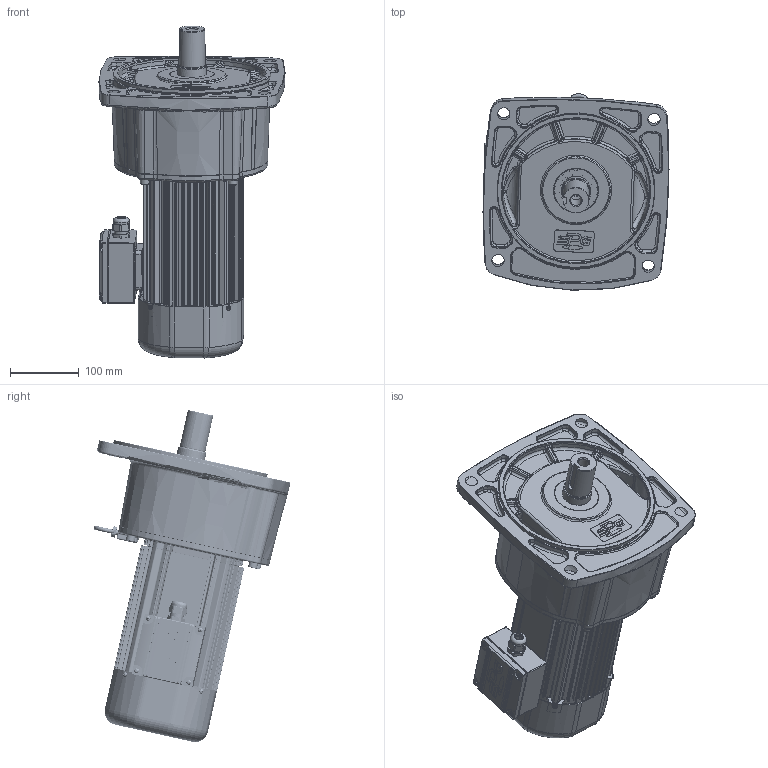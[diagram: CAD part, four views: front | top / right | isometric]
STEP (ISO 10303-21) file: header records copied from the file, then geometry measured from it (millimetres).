
FILE_DESCRIPTION(/* description */ (''),/* implementation_level */ '2;1');
FILE_NAME(/* name */ 'Z:\동력 3D 파일\PAF40_0.75kW_Brake_3D.stp',/* time_stamp */ '2021-11-08T15:47:15+09:00',/* author */ ('jaebok'),/* organization */ (''),/* preprocessor_version */ 'ST-DEVELOPER v18.1',/* originating_system */ 'Autodesk Inventor 2022',/* authorisation */ '');
FILE_SCHEMA (('AUTOMOTIVE_DESIGN { 1 0 10303 214 3 1 1 }'));
Products named in the file (1): 부품18
Bounding box: 271.27 x 286.81 x 484.16 mm (x, y, z)
Volume: 4150002.3 mm3; surface area: 991932.9 mm2
Topology: 1 solids, 32 shells, 4108 faces, 10376 edges, 6144 vertices
Faces by surface type: plane 1166, bspline 1139, cylinder 1059, torus 381, cone 248, sphere 115
Full cylindrical faces by diameter (mm): 2 x1, 3.25 x1, 3.6 x4, 4 x18, 5 x13, 6 x5, 6.8 x5, 7 x13, 8 x15, 9 x4, 10 x1, 12.5 x1, 13 x4, 15 x1, 16 x1, 20 x2, 20.6 x1, 21 x2, 23.6 x1, 25 x1, 28 x1, 35 x1, 38 x1, 39.6 x1, 40 x1, 40.15 x1, 42 x2, 44 x2, 45 x1, 46.8 x1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
Entity records: 168165 total; most frequent: CARTESIAN_POINT 73005, ORIENTED_EDGE 20212, DIRECTION 17502, EDGE_CURVE 10106, AXIS2_PLACEMENT_3D 7097, VERTEX_POINT 6143, EDGE_LOOP 4321, FACE_OUTER_BOUND 4108
